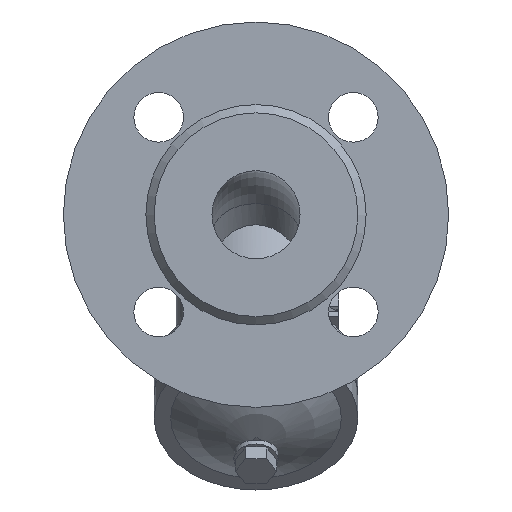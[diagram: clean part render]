
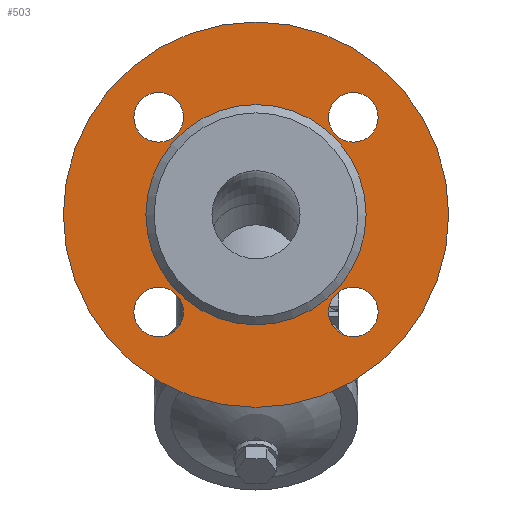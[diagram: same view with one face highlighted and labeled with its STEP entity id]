
A CAD part, front view. The second image highlights one B-rep face of the part: STEP entity #503.
In plain terms, the highlighted planar face has unit normal (0, -1, 0).
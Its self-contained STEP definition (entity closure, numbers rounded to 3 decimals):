
#503=ADVANCED_FACE('',(#1155,#1157,#1159,#1161,#1163,#1165),#1167,.T.);
#1155=FACE_BOUND('',#1156,.T.);
#1156=EDGE_LOOP('',(#1588));
#1157=FACE_BOUND('',#1158,.T.);
#1158=EDGE_LOOP('',(#1589));
#1159=FACE_BOUND('',#1160,.T.);
#1160=EDGE_LOOP('',(#1590));
#1161=FACE_BOUND('',#1162,.T.);
#1162=EDGE_LOOP('',(#1591));
#1163=FACE_BOUND('',#1164,.T.);
#1164=EDGE_LOOP('',(#1592));
#1165=FACE_BOUND('',#1166,.T.);
#1166=EDGE_LOOP('',(#1593));
#1167=PLANE('',#1168);
#1168=AXIS2_PLACEMENT_3D('',#1169,#1170,#1171);
#1169=CARTESIAN_POINT('',(0.,-87.,0.));
#1170=DIRECTION('',(0.,-1.,0.));
#1171=DIRECTION('',(0.,0.,1.));
#1588=ORIENTED_EDGE('',*,*,#1764,.F.);
#1589=ORIENTED_EDGE('',*,*,#1768,.T.);
#1590=ORIENTED_EDGE('',*,*,#1767,.T.);
#1591=ORIENTED_EDGE('',*,*,#1766,.T.);
#1592=ORIENTED_EDGE('',*,*,#1775,.T.);
#1593=ORIENTED_EDGE('',*,*,#1765,.T.);
#1764=EDGE_CURVE('',#1973,#1973,#1974,.T.);
#1765=EDGE_CURVE('',#1975,#1975,#1976,.F.);
#1766=EDGE_CURVE('',#1977,#1977,#1978,.F.);
#1767=EDGE_CURVE('',#1979,#1979,#1980,.F.);
#1768=EDGE_CURVE('',#1981,#1981,#1982,.F.);
#1775=EDGE_CURVE('',#1995,#1995,#1996,.T.);
#1973=VERTEX_POINT('',#3235);
#1974=CIRCLE('',#3236,70.);
#1975=VERTEX_POINT('',#3240);
#1976=CIRCLE('',#3241,9.);
#1977=VERTEX_POINT('',#3245);
#1978=CIRCLE('',#3246,9.);
#1979=VERTEX_POINT('',#3250);
#1980=CIRCLE('',#3251,9.);
#1981=VERTEX_POINT('',#3255);
#1982=CIRCLE('',#3256,9.);
#1995=VERTEX_POINT('',#3290);
#1996=CIRCLE('',#3291,40.);
#3235=CARTESIAN_POINT('',(0.,-87.,70.));
#3236=AXIS2_PLACEMENT_3D('',#3237,#3238,#3239);
#3237=CARTESIAN_POINT('',(0.,-87.,0.));
#3238=DIRECTION('',(0.,1.,0.));
#3239=DIRECTION('',(0.,0.,1.));
#3240=CARTESIAN_POINT('',(-26.355,-87.,35.355));
#3241=AXIS2_PLACEMENT_3D('',#3242,#3243,#3244);
#3242=CARTESIAN_POINT('',(-35.355,-87.,35.355));
#3243=DIRECTION('',(0.,-1.,0.));
#3244=DIRECTION('',(1.,0.,0.));
#3245=CARTESIAN_POINT('',(-35.355,-87.,-26.355));
#3246=AXIS2_PLACEMENT_3D('',#3247,#3248,#3249);
#3247=CARTESIAN_POINT('',(-35.355,-87.,-35.355));
#3248=DIRECTION('',(0.,-1.,0.));
#3249=DIRECTION('',(0.,0.,1.));
#3250=CARTESIAN_POINT('',(26.355,-87.,-35.355));
#3251=AXIS2_PLACEMENT_3D('',#3252,#3253,#3254);
#3252=CARTESIAN_POINT('',(35.355,-87.,-35.355));
#3253=DIRECTION('',(0.,-1.,0.));
#3254=DIRECTION('',(-1.,0.,0.));
#3255=CARTESIAN_POINT('',(35.355,-87.,26.355));
#3256=AXIS2_PLACEMENT_3D('',#3257,#3258,#3259);
#3257=CARTESIAN_POINT('',(35.355,-87.,35.355));
#3258=DIRECTION('',(0.,-1.,0.));
#3259=DIRECTION('',(0.,0.,-1.));
#3290=CARTESIAN_POINT('',(0.,-87.,40.));
#3291=AXIS2_PLACEMENT_3D('',#3292,#3293,#3294);
#3292=CARTESIAN_POINT('',(0.,-87.,0.));
#3293=DIRECTION('',(0.,1.,0.));
#3294=DIRECTION('',(0.,0.,1.));
